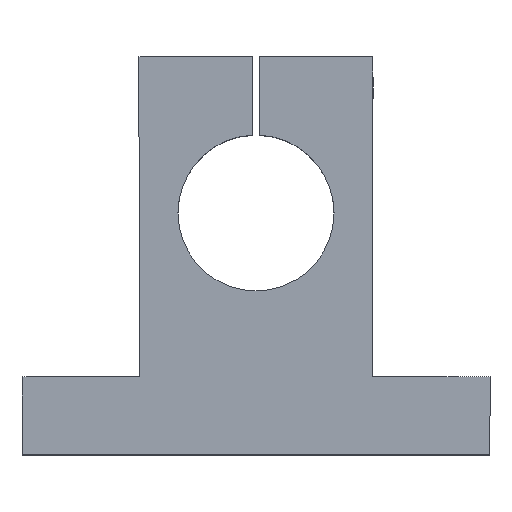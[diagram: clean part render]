
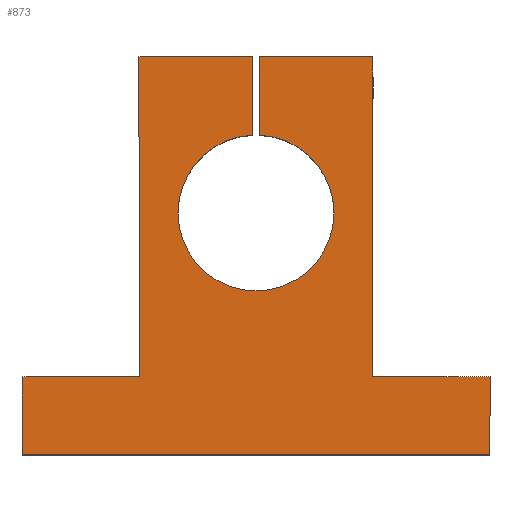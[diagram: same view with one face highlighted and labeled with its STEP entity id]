
A CAD part, top view. The second image highlights one B-rep face of the part: STEP entity #873.
In plain terms, the highlighted planar face has unit normal (0, 0, 1).
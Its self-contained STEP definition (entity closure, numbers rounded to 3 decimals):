
#51=CARTESIAN_POINT('',(40.302,28.903,20.0));
#52=VERTEX_POINT('',#51);
#59=CARTESIAN_POINT('',(30.802,38.891,20.0));
#60=VERTEX_POINT('',#59);
#61=CARTESIAN_POINT('',(30.302,28.903,20.0));
#62=DIRECTION('',(0.0,0.0,-1.0));
#63=DIRECTION('',(-1.0,0.0,0.0));
#64=AXIS2_PLACEMENT_3D('',#61,#62,#63);
#65=CIRCLE('',#64,10.0);
#66=EDGE_CURVE('',#60,#52,#65,.T.);
#91=CARTESIAN_POINT('',(20.302,28.903,20.0));
#92=VERTEX_POINT('',#91);
#101=CARTESIAN_POINT('',(30.302,28.903,20.0));
#102=DIRECTION('',(0.0,0.0,-1.0));
#103=DIRECTION('',(-1.0,0.0,0.0));
#104=AXIS2_PLACEMENT_3D('',#101,#102,#103);
#105=CIRCLE('',#104,10.0);
#106=EDGE_CURVE('',#52,#92,#105,.T.);
#590=CARTESIAN_POINT('',(29.802,38.891,20.0));
#591=VERTEX_POINT('',#590);
#606=CARTESIAN_POINT('',(29.802,48.903,20.0));
#607=VERTEX_POINT('',#606);
#614=CARTESIAN_POINT('',(29.802,38.891,20.0));
#615=DIRECTION('',(0.0,1.0,0.0));
#616=VECTOR('',#615,10.013);
#617=LINE('',#614,#616);
#618=EDGE_CURVE('',#591,#607,#617,.T.);
#633=CARTESIAN_POINT('',(30.802,48.903,20.0));
#634=VERTEX_POINT('',#633);
#635=CARTESIAN_POINT('',(30.802,48.903,20.0));
#636=DIRECTION('',(0.0,-1.0,0.0));
#637=VECTOR('',#636,10.013);
#638=LINE('',#635,#637);
#639=EDGE_CURVE('',#634,#60,#638,.T.);
#676=CARTESIAN_POINT('',(15.302,48.903,20.0));
#677=VERTEX_POINT('',#676);
#684=CARTESIAN_POINT('',(15.302,48.903,20.0));
#685=DIRECTION('',(1.0,0.0,0.0));
#686=VECTOR('',#685,14.5);
#687=LINE('',#684,#686);
#688=EDGE_CURVE('',#677,#607,#687,.T.);
#699=CARTESIAN_POINT('',(45.302,48.903,20.0));
#700=VERTEX_POINT('',#699);
#701=CARTESIAN_POINT('',(30.802,48.903,20.0));
#702=DIRECTION('',(1.0,0.0,0.0));
#703=VECTOR('',#702,14.5);
#704=LINE('',#701,#703);
#705=EDGE_CURVE('',#634,#700,#704,.T.);
#799=CARTESIAN_POINT('',(30.302,17.863,20.0));
#800=DIRECTION('',(0.0,0.0,1.0));
#801=DIRECTION('',(1.0,0.0,0.0));
#802=AXIS2_PLACEMENT_3D('',#799,#800,#801);
#803=PLANE('',#802);
#804=ORIENTED_EDGE('',*,*,#618,.T.);
#805=ORIENTED_EDGE('',*,*,#688,.F.);
#806=CARTESIAN_POINT('',(15.302,7.903,20.0));
#807=VERTEX_POINT('',#806);
#808=CARTESIAN_POINT('',(15.302,7.903,20.0));
#809=DIRECTION('',(0.0,1.0,0.0));
#810=VECTOR('',#809,41.0);
#811=LINE('',#808,#810);
#812=EDGE_CURVE('',#807,#677,#811,.T.);
#813=ORIENTED_EDGE('',*,*,#812,.F.);
#814=CARTESIAN_POINT('',(0.302,7.903,20.0));
#815=VERTEX_POINT('',#814);
#816=CARTESIAN_POINT('',(0.302,7.903,20.0));
#817=DIRECTION('',(1.0,0.0,0.0));
#818=VECTOR('',#817,15.);
#819=LINE('',#816,#818);
#820=EDGE_CURVE('',#815,#807,#819,.T.);
#821=ORIENTED_EDGE('',*,*,#820,.F.);
#822=CARTESIAN_POINT('',(0.302,-2.097,20.0));
#823=VERTEX_POINT('',#822);
#824=CARTESIAN_POINT('',(0.302,-2.097,20.0));
#825=DIRECTION('',(0.0,1.0,0.0));
#826=VECTOR('',#825,10.0);
#827=LINE('',#824,#826);
#828=EDGE_CURVE('',#823,#815,#827,.T.);
#829=ORIENTED_EDGE('',*,*,#828,.F.);
#830=CARTESIAN_POINT('',(60.302,-2.097,20.0));
#831=VERTEX_POINT('',#830);
#832=CARTESIAN_POINT('',(60.302,-2.097,20.0));
#833=DIRECTION('',(-1.0,0.0,0.0));
#834=VECTOR('',#833,60.);
#835=LINE('',#832,#834);
#836=EDGE_CURVE('',#831,#823,#835,.T.);
#837=ORIENTED_EDGE('',*,*,#836,.F.);
#838=CARTESIAN_POINT('',(60.302,7.903,20.0));
#839=VERTEX_POINT('',#838);
#840=CARTESIAN_POINT('',(60.302,7.903,20.0));
#841=DIRECTION('',(0.0,-1.0,0.0));
#842=VECTOR('',#841,10.0);
#843=LINE('',#840,#842);
#844=EDGE_CURVE('',#839,#831,#843,.T.);
#845=ORIENTED_EDGE('',*,*,#844,.F.);
#846=CARTESIAN_POINT('',(45.302,7.903,20.0));
#847=VERTEX_POINT('',#846);
#848=CARTESIAN_POINT('',(45.302,7.903,20.0));
#849=DIRECTION('',(1.0,0.0,0.0));
#850=VECTOR('',#849,15.);
#851=LINE('',#848,#850);
#852=EDGE_CURVE('',#847,#839,#851,.T.);
#853=ORIENTED_EDGE('',*,*,#852,.F.);
#854=CARTESIAN_POINT('',(45.302,48.903,20.0));
#855=DIRECTION('',(0.0,-1.0,0.0));
#856=VECTOR('',#855,41.0);
#857=LINE('',#854,#856);
#858=EDGE_CURVE('',#700,#847,#857,.T.);
#859=ORIENTED_EDGE('',*,*,#858,.F.);
#860=ORIENTED_EDGE('',*,*,#705,.F.);
#861=ORIENTED_EDGE('',*,*,#639,.T.);
#862=ORIENTED_EDGE('',*,*,#66,.T.);
#863=ORIENTED_EDGE('',*,*,#106,.T.);
#864=CARTESIAN_POINT('',(30.302,28.903,20.0));
#865=DIRECTION('',(0.0,0.0,-1.0));
#866=DIRECTION('',(-1.0,0.0,0.0));
#867=AXIS2_PLACEMENT_3D('',#864,#865,#866);
#868=CIRCLE('',#867,10.0);
#869=EDGE_CURVE('',#92,#591,#868,.T.);
#870=ORIENTED_EDGE('',*,*,#869,.T.);
#871=EDGE_LOOP('',(#804,#805,#813,#821,#829,#837,#845,#853,#859,#860,#861,#862,#863,#870));
#872=FACE_OUTER_BOUND('',#871,.T.);
#873=ADVANCED_FACE('',(#872),#803,.T.);
